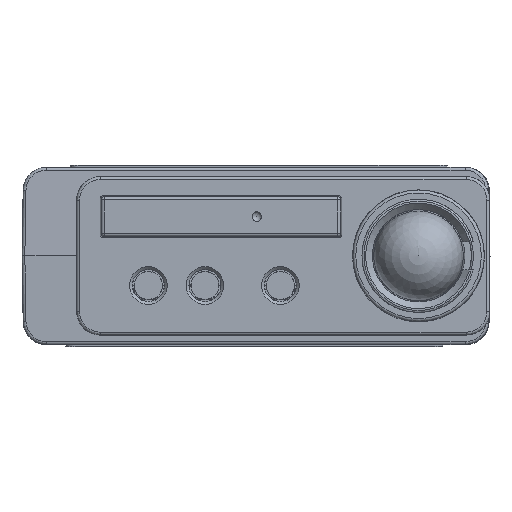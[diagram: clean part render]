
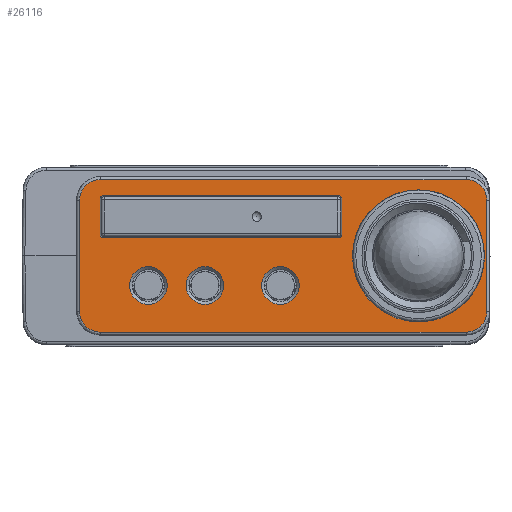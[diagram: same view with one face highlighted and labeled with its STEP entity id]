
A CAD part, top view. The second image highlights one B-rep face of the part: STEP entity #26116.
In plain terms, the highlighted planar face has unit normal (0, 0, 1).
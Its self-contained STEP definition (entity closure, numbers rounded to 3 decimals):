
#133=ELLIPSE('',#27844,0.3,0.3);
#134=ELLIPSE('',#27845,0.3,0.3);
#135=ELLIPSE('',#27846,0.3,0.3);
#136=ELLIPSE('',#27847,0.3,0.3);
#927=CIRCLE('',#27836,2.);
#928=CIRCLE('',#27838,2.2);
#929=CIRCLE('',#27839,2.2);
#930=CIRCLE('',#27840,2.2);
#931=CIRCLE('',#27841,2.2);
#932=CIRCLE('',#27842,2.);
#933=CIRCLE('',#27843,7.);
#934=CIRCLE('',#27848,2.);
#1655=FACE_BOUND('',#3860,.T.);
#1656=FACE_BOUND('',#3861,.T.);
#1657=FACE_BOUND('',#3862,.T.);
#1658=FACE_BOUND('',#3863,.T.);
#1659=FACE_BOUND('',#3864,.T.);
#2400=FACE_OUTER_BOUND('',#3859,.T.);
#3859=EDGE_LOOP('',(#19626,#19627,#19628,#19629,#19630,#19631,#19632,#19633));
#3860=EDGE_LOOP('',(#19634));
#3861=EDGE_LOOP('',(#19635));
#3862=EDGE_LOOP('',(#19636,#19637,#19638,#19639,#19640,#19641,#19642,#19643));
#3863=EDGE_LOOP('',(#19644));
#3864=EDGE_LOOP('',(#19645));
#5896=LINE('',#41596,#8510);
#5897=LINE('',#41600,#8511);
#5898=LINE('',#41604,#8512);
#5899=LINE('',#41608,#8513);
#5900=LINE('',#41616,#8514);
#5901=LINE('',#41620,#8515);
#5902=LINE('',#41624,#8516);
#5903=LINE('',#41628,#8517);
#8510=VECTOR('',#32085,10.);
#8511=VECTOR('',#32088,10.);
#8512=VECTOR('',#32091,10.);
#8513=VECTOR('',#32094,10.);
#8514=VECTOR('',#32101,10.);
#8515=VECTOR('',#32104,10.);
#8516=VECTOR('',#32107,10.);
#8517=VECTOR('',#32110,10.);
#11216=VERTEX_POINT('',#41591);
#11217=VERTEX_POINT('',#41594);
#11218=VERTEX_POINT('',#41595);
#11219=VERTEX_POINT('',#41597);
#11220=VERTEX_POINT('',#41599);
#11221=VERTEX_POINT('',#41601);
#11222=VERTEX_POINT('',#41603);
#11223=VERTEX_POINT('',#41605);
#11224=VERTEX_POINT('',#41607);
#11225=VERTEX_POINT('',#41610);
#11226=VERTEX_POINT('',#41612);
#11227=VERTEX_POINT('',#41614);
#11228=VERTEX_POINT('',#41615);
#11229=VERTEX_POINT('',#41617);
#11230=VERTEX_POINT('',#41619);
#11231=VERTEX_POINT('',#41621);
#11232=VERTEX_POINT('',#41623);
#11233=VERTEX_POINT('',#41625);
#11234=VERTEX_POINT('',#41627);
#11235=VERTEX_POINT('',#41630);
#14240=EDGE_CURVE('',#11216,#11216,#927,.T.);
#14241=EDGE_CURVE('',#11217,#11218,#5896,.T.);
#14242=EDGE_CURVE('',#11219,#11217,#928,.T.);
#14243=EDGE_CURVE('',#11220,#11219,#5897,.T.);
#14244=EDGE_CURVE('',#11221,#11220,#929,.T.);
#14245=EDGE_CURVE('',#11222,#11221,#5898,.T.);
#14246=EDGE_CURVE('',#11223,#11222,#930,.T.);
#14247=EDGE_CURVE('',#11224,#11223,#5899,.T.);
#14248=EDGE_CURVE('',#11218,#11224,#931,.T.);
#14249=EDGE_CURVE('',#11225,#11225,#932,.T.);
#14250=EDGE_CURVE('',#11226,#11226,#933,.T.);
#14251=EDGE_CURVE('',#11227,#11228,#5900,.T.);
#14252=EDGE_CURVE('',#11229,#11228,#133,.F.);
#14253=EDGE_CURVE('',#11230,#11229,#5901,.T.);
#14254=EDGE_CURVE('',#11231,#11230,#134,.F.);
#14255=EDGE_CURVE('',#11231,#11232,#5902,.T.);
#14256=EDGE_CURVE('',#11233,#11232,#135,.F.);
#14257=EDGE_CURVE('',#11233,#11234,#5903,.T.);
#14258=EDGE_CURVE('',#11227,#11234,#136,.F.);
#14259=EDGE_CURVE('',#11235,#11235,#934,.T.);
#19626=ORIENTED_EDGE('',*,*,#14241,.F.);
#19627=ORIENTED_EDGE('',*,*,#14242,.F.);
#19628=ORIENTED_EDGE('',*,*,#14243,.F.);
#19629=ORIENTED_EDGE('',*,*,#14244,.F.);
#19630=ORIENTED_EDGE('',*,*,#14245,.F.);
#19631=ORIENTED_EDGE('',*,*,#14246,.F.);
#19632=ORIENTED_EDGE('',*,*,#14247,.F.);
#19633=ORIENTED_EDGE('',*,*,#14248,.F.);
#19634=ORIENTED_EDGE('',*,*,#14249,.F.);
#19635=ORIENTED_EDGE('',*,*,#14250,.T.);
#19636=ORIENTED_EDGE('',*,*,#14251,.T.);
#19637=ORIENTED_EDGE('',*,*,#14252,.F.);
#19638=ORIENTED_EDGE('',*,*,#14253,.F.);
#19639=ORIENTED_EDGE('',*,*,#14254,.F.);
#19640=ORIENTED_EDGE('',*,*,#14255,.T.);
#19641=ORIENTED_EDGE('',*,*,#14256,.F.);
#19642=ORIENTED_EDGE('',*,*,#14257,.T.);
#19643=ORIENTED_EDGE('',*,*,#14258,.F.);
#19644=ORIENTED_EDGE('',*,*,#14259,.F.);
#19645=ORIENTED_EDGE('',*,*,#14240,.F.);
#23686=PLANE('',#27837);
#26116=ADVANCED_FACE('',(#2400,#1655,#1656,#1657,#1658,#1659),#23686,.F.);
#27836=AXIS2_PLACEMENT_3D('',#41592,#32081,#32082);
#27837=AXIS2_PLACEMENT_3D('',#41593,#32083,#32084);
#27838=AXIS2_PLACEMENT_3D('',#41598,#32086,#32087);
#27839=AXIS2_PLACEMENT_3D('',#41602,#32089,#32090);
#27840=AXIS2_PLACEMENT_3D('',#41606,#32092,#32093);
#27841=AXIS2_PLACEMENT_3D('',#41609,#32095,#32096);
#27842=AXIS2_PLACEMENT_3D('',#41611,#32097,#32098);
#27843=AXIS2_PLACEMENT_3D('',#41613,#32099,#32100);
#27844=AXIS2_PLACEMENT_3D('',#41618,#32102,#32103);
#27845=AXIS2_PLACEMENT_3D('',#41622,#32105,#32106);
#27846=AXIS2_PLACEMENT_3D('',#41626,#32108,#32109);
#27847=AXIS2_PLACEMENT_3D('',#41629,#32111,#32112);
#27848=AXIS2_PLACEMENT_3D('',#41631,#32113,#32114);
#32081=DIRECTION('center_axis',(0.,0.,1.));
#32082=DIRECTION('ref_axis',(-1.,0.,0.));
#32083=DIRECTION('center_axis',(0.,0.,-1.));
#32084=DIRECTION('ref_axis',(-1.,0.,0.));
#32085=DIRECTION('',(0.,-1.,0.));
#32086=DIRECTION('center_axis',(0.,0.,-1.));
#32087=DIRECTION('ref_axis',(1.,0.,0.));
#32088=DIRECTION('',(1.,0.,0.));
#32089=DIRECTION('center_axis',(0.,0.,-1.));
#32090=DIRECTION('ref_axis',(0.,1.,0.));
#32091=DIRECTION('',(0.,1.,0.));
#32092=DIRECTION('center_axis',(0.,0.,-1.));
#32093=DIRECTION('ref_axis',(-1.,0.,0.));
#32094=DIRECTION('',(-1.,0.,0.));
#32095=DIRECTION('center_axis',(0.,0.,-1.));
#32096=DIRECTION('ref_axis',(0.,-1.,0.));
#32097=DIRECTION('center_axis',(0.,0.,1.));
#32098=DIRECTION('ref_axis',(-1.,0.,0.));
#32099=DIRECTION('center_axis',(0.,0.,-1.));
#32100=DIRECTION('ref_axis',(-1.,0.,0.));
#32101=DIRECTION('',(1.,0.,0.));
#32102=DIRECTION('center_axis',(0.,0.,-1.));
#32103=DIRECTION('ref_axis',(0.707,0.707,0.));
#32104=DIRECTION('',(0.,1.,0.));
#32105=DIRECTION('center_axis',(0.,0.,-1.));
#32106=DIRECTION('ref_axis',(0.707,-0.707,0.));
#32107=DIRECTION('',(-1.,0.,0.));
#32108=DIRECTION('center_axis',(0.,0.,-1.));
#32109=DIRECTION('ref_axis',(-0.707,-0.707,0.));
#32110=DIRECTION('',(0.,1.,0.));
#32111=DIRECTION('center_axis',(0.,0.,-1.));
#32112=DIRECTION('ref_axis',(-0.707,0.707,0.));
#32113=DIRECTION('center_axis',(0.,0.,1.));
#32114=DIRECTION('ref_axis',(-1.,0.,0.));
#41591=CARTESIAN_POINT('',(1.7,-3.15,2.6));
#41592=CARTESIAN_POINT('Origin',(-0.3,-3.15,2.6));
#41593=CARTESIAN_POINT('Origin',(14.05,0.,2.6));
#41594=CARTESIAN_POINT('',(21.593,5.895,2.6));
#41595=CARTESIAN_POINT('',(21.594,-5.894,2.6));
#41596=CARTESIAN_POINT('',(21.594,0.,2.6));
#41597=CARTESIAN_POINT('',(19.394,8.095,2.6));
#41598=CARTESIAN_POINT('Origin',(19.394,5.895,2.6));
#41599=CARTESIAN_POINT('',(-19.394,8.095,2.6));
#41600=CARTESIAN_POINT('',(7.025,8.095,2.6));
#41601=CARTESIAN_POINT('',(-21.593,5.895,2.6));
#41602=CARTESIAN_POINT('Origin',(-19.394,5.895,2.6));
#41603=CARTESIAN_POINT('',(-21.594,-5.894,2.6));
#41604=CARTESIAN_POINT('',(-21.594,0.001,2.6));
#41605=CARTESIAN_POINT('',(-19.394,-8.095,2.6));
#41606=CARTESIAN_POINT('Origin',(-19.394,-5.895,2.6));
#41607=CARTESIAN_POINT('',(19.394,-8.095,2.6));
#41608=CARTESIAN_POINT('',(7.025,-8.095,2.6));
#41609=CARTESIAN_POINT('Origin',(19.394,-5.895,2.6));
#41610=CARTESIAN_POINT('',(-6.3,-3.15,2.6));
#41611=CARTESIAN_POINT('Origin',(-8.3,-3.15,2.6));
#41612=CARTESIAN_POINT('',(21.35,0.,2.6));
#41613=CARTESIAN_POINT('Origin',(14.35,0.,2.6));
#41614=CARTESIAN_POINT('',(-19.1,6.35,2.6));
#41615=CARTESIAN_POINT('',(5.9,6.35,2.6));
#41616=CARTESIAN_POINT('',(-0.825,6.35,2.6));
#41617=CARTESIAN_POINT('',(6.2,6.05,2.6));
#41618=CARTESIAN_POINT('Origin',(5.9,6.05,2.6));
#41619=CARTESIAN_POINT('',(6.2,2.25,2.6));
#41620=CARTESIAN_POINT('',(6.2,8.4,2.6));
#41621=CARTESIAN_POINT('',(5.9,1.95,2.6));
#41622=CARTESIAN_POINT('Origin',(5.9,2.25,2.6));
#41623=CARTESIAN_POINT('',(-19.1,1.95,2.6));
#41624=CARTESIAN_POINT('',(-14.875,1.95,2.6));
#41625=CARTESIAN_POINT('',(-19.4,2.25,2.6));
#41626=CARTESIAN_POINT('Origin',(-19.1,2.25,2.6));
#41627=CARTESIAN_POINT('',(-19.4,6.05,2.6));
#41628=CARTESIAN_POINT('',(-19.4,1.95,2.6));
#41629=CARTESIAN_POINT('Origin',(-19.1,6.05,2.6));
#41630=CARTESIAN_POINT('',(-12.3,-3.15,2.6));
#41631=CARTESIAN_POINT('Origin',(-14.3,-3.15,2.6));
